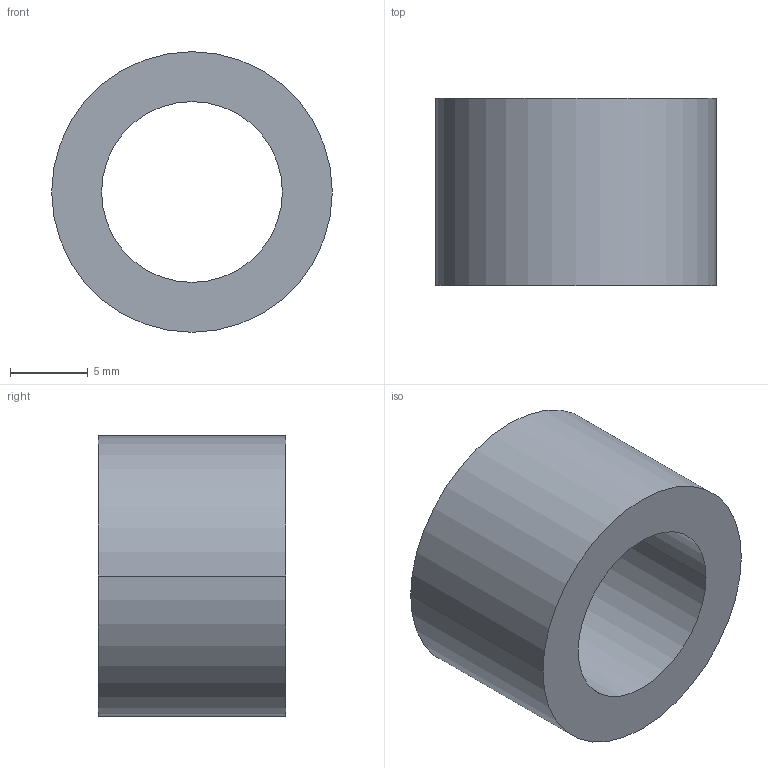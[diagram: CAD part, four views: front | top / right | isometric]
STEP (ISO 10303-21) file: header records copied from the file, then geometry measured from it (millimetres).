
FILE_DESCRIPTION (( 'STEP AP203' ), '1' );
FILE_NAME ('30800.WPP18E11.6.step', '2019-01-23T22:37:44', ( '' ), ( '' ), 'SwSTEP 2.0', 'SolidWorks 2017', '' );
FILE_SCHEMA (( 'CONFIG_CONTROL_DESIGN' ));
Length unit declared in the file: millimetre
Products named in the file (1): 30800.WPP18E11.6
Bounding box: 18 x 12 x 18 mm (x, y, z)
Volume: 1751.7 mm3; surface area: 1384 mm2
Topology: 1 solids, 1 shells, 8 faces, 16 edges, 10 vertices
Faces by surface type: cylinder 4, torus 2, plane 2
Entity records: 297 total; most frequent: DIRECTION 46, CARTESIAN_POINT 35, ORIENTED_EDGE 32, AXIS2_PLACEMENT_3D 21, EDGE_CURVE 16, CIRCLE 12, VERTEX_POINT 10, EDGE_LOOP 10
